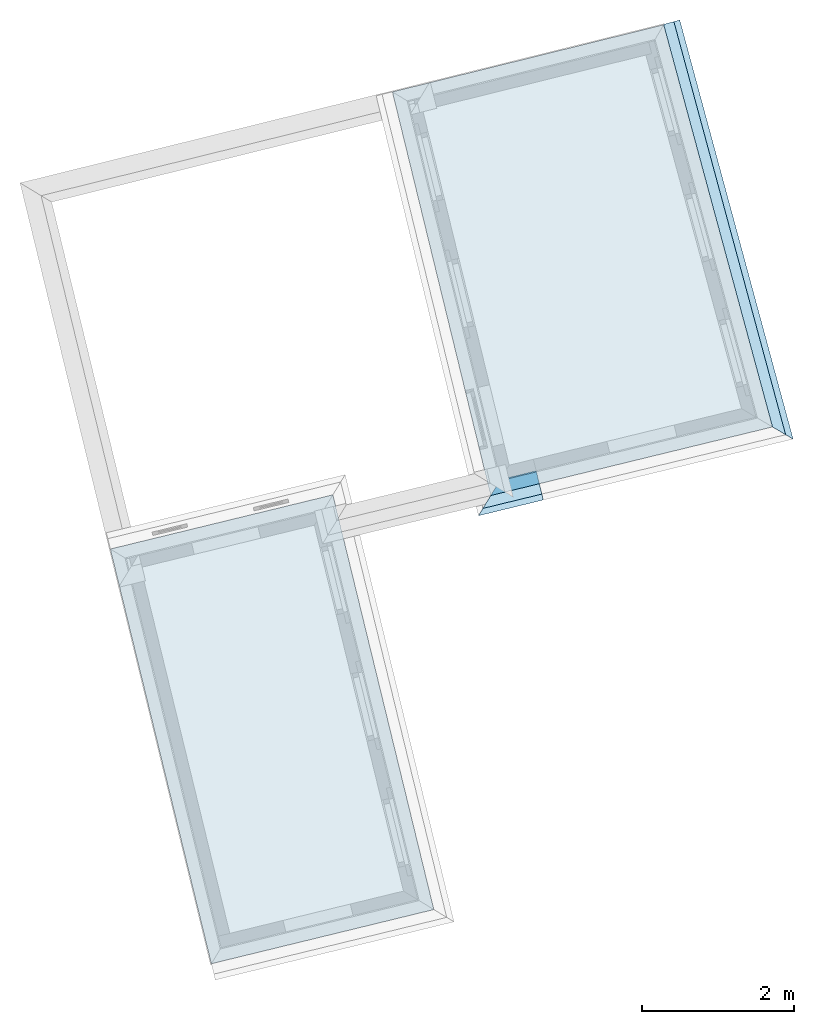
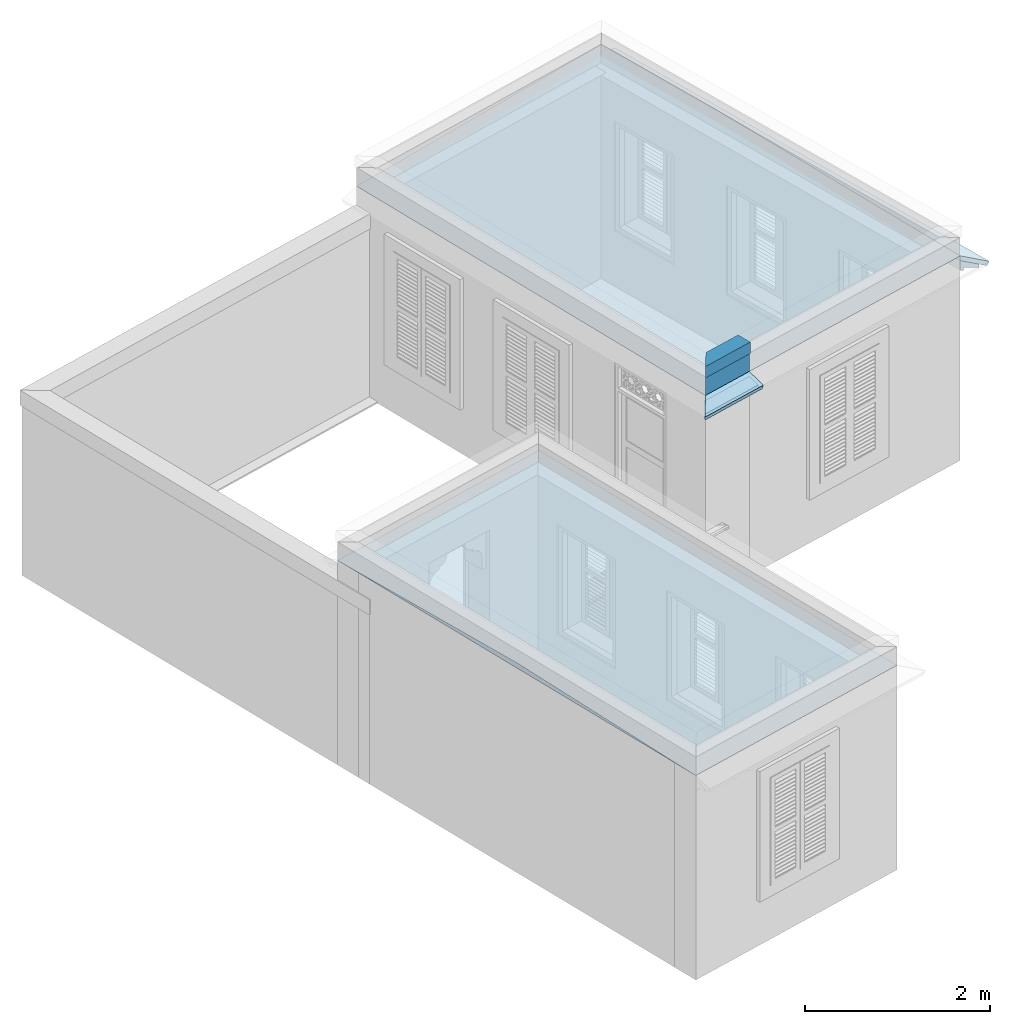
# One storey, part 7 of 7: 7 roofs.
"""IFC4 building model written with IfcOpenShell, lengths in metres."""

from ifc_helpers import new_model, si_unit, frame, origin, origin_with_axes, place, context, subcontext, project, spatial, polyline, outline, extrude, boolean, clip, halfspace, faceted_brep, material_profile, profile_set, profile_usage, type_object, element, save


model = new_model("IFC4")

# Units and contexts
model_context = context("Model", 3, world=origin_with_axes())
body_context = subcontext(model_context, "Body", "Model", "MODEL_VIEW")
ifc_project = project(units=[si_unit("PLANEANGLEUNIT", "RADIAN"), si_unit("MASSUNIT", "GRAM", prefix="KILO"), si_unit("FORCEUNIT", "NEWTON", prefix="KILO"), si_unit("LENGTHUNIT", "METRE"), si_unit("AREAUNIT", "SQUARE_METRE"), si_unit("VOLUMEUNIT", "CUBIC_METRE")], contexts=[model_context, model_context])

# Site, building, storey
site_placement = place(None, origin_with_axes())
site = spatial("IfcSite", under=ifc_project, at=site_placement, Name="Site plot-4", CompositionType="ELEMENT")
building_placement = place(None, origin_with_axes())
building = spatial("IfcBuilding", under=site, at=building_placement, Name="Building plot-4", CompositionType="ELEMENT")
storey_placement = place(None, frame((0.0, 0.0, 5.4), z_axis=(0.0, 0.0, 1.0), x_axis=(1.0, 0.0, 0.0)))
storey = spatial("IfcBuildingStorey", under=building, at=storey_placement, Name="plot-4 2", CompositionType="ELEMENT", Elevation=5.4)

# Roofs
ifc_material_profile_1 = material_profile(None, outline(polyline([(0.25, 0.0), (0.25, 0.245), (0.09, 0.245), (0.09, 0.0), (0.25, 0.0)])))
ifc_profile_set_1 = profile_set([ifc_material_profile_1])
ifc_profile_usage_1 = profile_usage(ifc_profile_set_1)
roof_type_1 = type_object("IfcRoofType", Name="roofline_0", PredefinedType="FREEFORM", material=ifc_profile_set_1)
roof_1_placement = place(storey_placement, frame((24.7742901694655, 15.9528622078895, 2.7), z_axis=(-0.971605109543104, -0.236608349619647, 0.0), x_axis=(0.236608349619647, -0.971605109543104, 0.0)))
element("IfcRoof", 1, at=roof_1_placement, inside=storey, type_object=roof_type_1, material=ifc_profile_usage_1, Name="roofline_0", context=body_context, shape_type="Clipping", body=[
    clip(clip(extrude(outline(polyline([(0.25, 0.0), (0.25, 0.245), (0.09, 0.245), (0.09, 0.0), (0.25, 0.0)])), origin_with_axes(), (0.0, 0.0, 1.0), 2.40727936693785), halfspace(frame((0.0, 0.0, 1.40727936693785), z_axis=(0.707106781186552, 0.0, -0.707106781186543), x_axis=(0.0, 1.0, 0.0)), True)), halfspace(frame((0.0, 0.0, 1.0), z_axis=(-2.83276944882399e-16, 0.0, -1.0), x_axis=(0.0, 1.0, 0.0)), False)),
])
ifc_material_profile_2 = material_profile(None, outline(polyline([(0.265, 0.245), (0.265, 0.395), (0.075, 0.395), (0.075, 0.245), (0.265, 0.245)])))
ifc_profile_set_2 = profile_set([ifc_material_profile_2])
ifc_profile_usage_2 = profile_usage(ifc_profile_set_2)
roof_type_2 = type_object("IfcRoofType", Name="roofline_1", PredefinedType="FREEFORM", material=ifc_profile_set_2)
roof_2_placement = place(storey_placement, frame((24.7742901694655, 15.9528622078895, 2.7), z_axis=(-0.971605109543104, -0.236608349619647, 0.0), x_axis=(0.236608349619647, -0.971605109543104, 0.0)))
element("IfcRoof", 2, at=roof_2_placement, inside=storey, type_object=roof_type_2, material=ifc_profile_usage_2, Name="roofline_1", context=body_context, shape_type="Clipping", body=[
    clip(clip(extrude(outline(polyline([(0.265, 0.245), (0.265, 0.395), (0.075, 0.395), (0.075, 0.245), (0.265, 0.245)])), origin_with_axes(), (0.0, 0.0, 1.0), 2.40727936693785), halfspace(frame((0.0, 0.0, 1.40727936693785), z_axis=(0.707106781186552, 0.0, -0.707106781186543), x_axis=(0.0, 1.0, 0.0)), True)), halfspace(frame((0.0, 0.0, 1.0), z_axis=(-2.83276944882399e-16, 0.0, -1.0), x_axis=(0.0, 1.0, 0.0)), False)),
])
ifc_material_profile_3 = material_profile(None, outline(polyline([(0.25, -0.19), (0.275, -0.19), (0.275, -0.15), (0.39, -0.15), (0.39, -0.107509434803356), (0.25, -0.0629639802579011), (0.25, -0.19)])))
ifc_profile_set_3 = profile_set([ifc_material_profile_3])
ifc_profile_usage_3 = profile_usage(ifc_profile_set_3)
roof_type_3 = type_object("IfcRoofType", Name="eaves_0", PredefinedType="FREEFORM", material=ifc_profile_set_3)
roof_3_placement = place(storey_placement, frame((24.7742901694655, 15.9528622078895, 2.7), z_axis=(-0.971605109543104, -0.236608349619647, 0.0), x_axis=(0.236608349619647, -0.971605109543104, 0.0)))
element("IfcRoof", 3, at=roof_3_placement, inside=storey, type_object=roof_type_3, material=ifc_profile_usage_3, Name="eaves_0", context=body_context, shape_type="Clipping", body=[
    clip(clip(extrude(outline(polyline([(0.25, -0.19), (0.275, -0.19), (0.275, -0.15), (0.39, -0.15), (0.39, -0.107509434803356), (0.25, -0.0629639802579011), (0.25, -0.19)])), origin_with_axes(), (0.0, 0.0, 1.0), 2.40727936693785), halfspace(frame((0.0, 0.0, 1.40727936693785), z_axis=(0.707106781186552, 0.0, -0.707106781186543), x_axis=(0.0, 1.0, 0.0)), True)), halfspace(frame((0.0, 0.0, 1.0), z_axis=(-2.83276944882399e-16, 0.0, -1.0), x_axis=(0.0, 1.0, 0.0)), False)),
])
ifc_profile_usage_4 = profile_usage(ifc_profile_set_3)
roof_4_placement = place(storey_placement, frame((24.992615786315, 22.4105828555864, 2.7), z_axis=(0.261170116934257, -0.965292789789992, 0.0), x_axis=(0.965292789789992, 0.261170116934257, 0.0)))
element("IfcRoof", 4, at=roof_4_placement, inside=storey, type_object=roof_type_3, material=ifc_profile_usage_4, Name="eaves_0", context=body_context, shape_type="Clipping", body=[
    clip(clip(extrude(outline(polyline([(0.25, -0.19), (0.275, -0.19), (0.275, -0.15), (0.39, -0.15), (0.39, -0.107509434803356), (0.25, -0.0629639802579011), (0.25, -0.19)])), origin_with_axes(), (0.0, 0.0, 1.0), 7.22469834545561), halfspace(frame((0.0, 0.0, 6.22469834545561), z_axis=(0.716016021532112, 0.0, -0.698083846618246), x_axis=(0.0, 1.0, 0.0)), True)), halfspace(frame((0.0, 0.0, 1.0), z_axis=(1.49307989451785e-15, 0.0, -1.0), x_axis=(0.0, 1.0, 0.0)), False)),
])
ifc_material_profile_4 = material_profile(None, outline(polyline([(0.25, -0.0629639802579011), (0.451807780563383, -0.127175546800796), (0.47, -0.07), (0.25, 0.0), (0.25, -0.0629639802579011)])))
ifc_profile_set_4 = profile_set([ifc_material_profile_4])
ifc_profile_usage_5 = profile_usage(ifc_profile_set_4)
roof_type_4 = type_object("IfcRoofType", Name="eaves_1", PredefinedType="FREEFORM", material=ifc_profile_set_4)
roof_5_placement = place(storey_placement, frame((24.7742901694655, 15.9528622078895, 2.7), z_axis=(-0.971605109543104, -0.236608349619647, 0.0), x_axis=(0.236608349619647, -0.971605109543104, 0.0)))
element("IfcRoof", 5, at=roof_5_placement, inside=storey, type_object=roof_type_4, material=ifc_profile_usage_5, Name="eaves_1", context=body_context, shape_type="Clipping", body=[
    clip(clip(extrude(outline(polyline([(0.25, -0.0629639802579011), (0.451807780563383, -0.127175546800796), (0.47, -0.07), (0.25, 0.0), (0.25, -0.0629639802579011)])), origin_with_axes(), (0.0, 0.0, 1.0), 2.40727936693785), halfspace(frame((0.0, 0.0, 1.40727936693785), z_axis=(0.707106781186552, 0.0, -0.707106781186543), x_axis=(0.0, 1.0, 0.0)), True)), halfspace(frame((0.0, 0.0, 1.0), z_axis=(-2.83276944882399e-16, 0.0, -1.0), x_axis=(0.0, 1.0, 0.0)), False)),
])
ifc_profile_usage_6 = profile_usage(ifc_profile_set_4)
roof_6_placement = place(storey_placement, frame((24.992615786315, 22.4105828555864, 2.7), z_axis=(0.261170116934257, -0.965292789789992, 0.0), x_axis=(0.965292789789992, 0.261170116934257, 0.0)))
element("IfcRoof", 6, at=roof_6_placement, inside=storey, type_object=roof_type_4, material=ifc_profile_usage_6, Name="eaves_1", context=body_context, shape_type="Clipping", body=[
    clip(clip(extrude(outline(polyline([(0.25, -0.0629639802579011), (0.451807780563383, -0.127175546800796), (0.47, -0.07), (0.25, 0.0), (0.25, -0.0629639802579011)])), origin_with_axes(), (0.0, 0.0, 1.0), 7.22469834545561), halfspace(frame((0.0, 0.0, 6.22469834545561), z_axis=(0.716016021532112, 0.0, -0.698083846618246), x_axis=(0.0, 1.0, 0.0)), True)), halfspace(frame((0.0, 0.0, 1.0), z_axis=(1.49307989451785e-15, 0.0, -1.0), x_axis=(0.0, 1.0, 0.0)), False)),
])
roof_7_placement = place(building_placement, origin())
element("IfcRoof", 7, at=roof_7_placement, inside=storey, Name="Roof", PredefinedType="FREEFORM", context=body_context, shape_type="CSG", body=[
    boolean("UNION", faceted_brep([(21.931282, 20.623034, 8.1), (23.223221, 15.317835, 8.1), (25.955446, 19.809162, 8.192933), (25.496505, 21.505423, 8.191819), (25.496505, 21.505423, 8.1), (26.926614, 16.219697, 8.1)], [[[0, 1, 2, 3]], [[4, 5, 1, 0]], [[3, 4, 0]], [[2, 1, 5]], [[2, 5, 4, 3]]]), faceted_brep([(21.148208, 15.327133, 8.1), (18.223659, 14.614938, 8.1), (18.887317, 11.889701, 8.170122), (19.086629, 11.938238, 8.170122), (19.550975, 9.164464, 8.1), (22.475525, 9.876659, 8.1)], [[[0, 1, 2, 3]], [[4, 5, 3, 2]], [[5, 4, 1, 0]], [[5, 0, 3]], [[1, 4, 2]]])),
])

save(model, "model.ifc")
